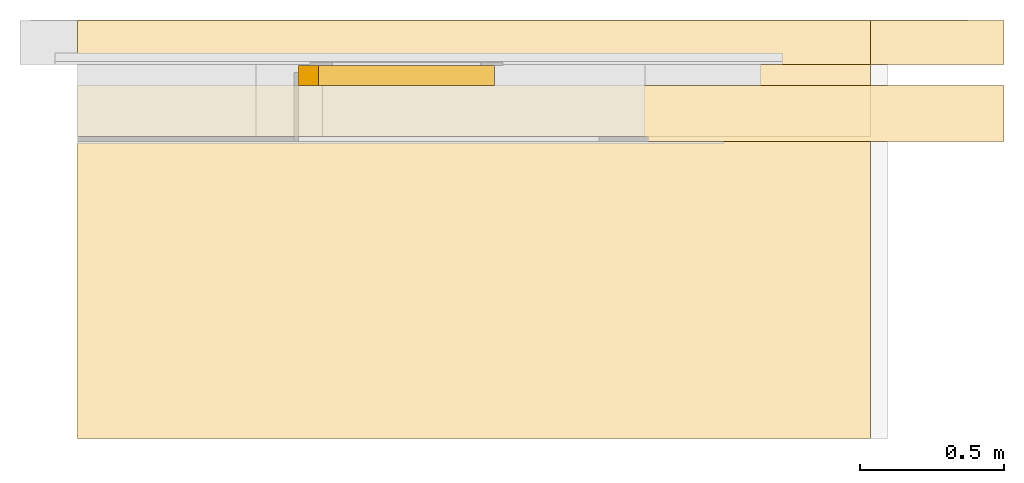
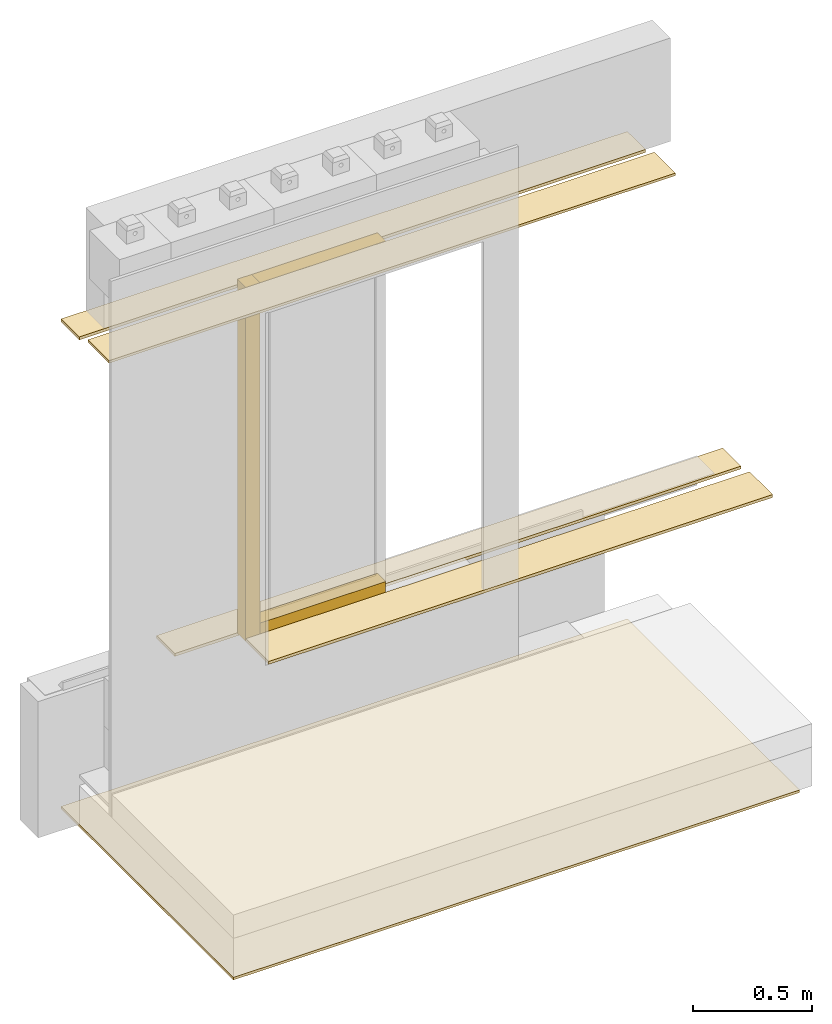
# One storey, part 2 of 4: 5 coverings, 3 windows.
"""IFC4 building model written with IfcOpenShell, lengths in centimetres."""

from ifc_helpers import new_model, entity, si_unit, converted_unit, direction, frame, origin, place, context, subcontext, project, spatial, indexed_curve, outline, extrude, source, transform, mapped, material, type_object, type_shapes, element, save


model = new_model("IFC4")

# Units and contexts
model_context = context("Model", 3, precision=0.001, world=origin(), true_north=direction((0.0, 1.0)))
body_context = subcontext(model_context, "Body", "Model", "MODEL_VIEW")
ifc_project = project(units=[si_unit("LENGTHUNIT", "METRE", prefix="CENTI"), si_unit("AREAUNIT", "SQUARE_METRE"), si_unit("VOLUMEUNIT", "CUBIC_METRE"), converted_unit("PLANEANGLEUNIT", "DEGREE", entity("IfcPlaneAngleMeasure", 0.017453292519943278), si_unit("PLANEANGLEUNIT", "RADIAN"), dimensions=[0, 0, 0, 0, 0, 0, 0])], contexts=[model_context])

# Site, building, storey
site_placement = place(None, origin())
site = spatial("IfcSite", under=ifc_project, at=site_placement, Name="Default", CompositionType="ELEMENT")
building_placement = place(site_placement, origin())
building = spatial("IfcBuilding", under=site, at=building_placement, CompositionType="ELEMENT")
storey_placement = place(building_placement, frame((0.0, 0.0, -12.0)))
storey = spatial("IfcBuildingStorey", under=building, at=storey_placement, Name="L00__ABOVE Slab", CompositionType="ELEMENT", Elevation=-12.000000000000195)

# Windows
ifc_material_1 = material(Name="_WINDOW__Profile__Aluminium", Category="Miscellaneous")
window_type_1 = type_object("IfcWindowType", Name="Windows : wdw_s__PROFILE__Frame__wp : Wood", PartitioningType="NOTDEFINED", PredefinedType="WINDOW", material=ifc_material_1)
shared_shape_1 = source(origin(), body_context, "Body", "SweptSolid", [
    extrude(outline(indexed_curve([(-3.4999999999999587, -3.5000000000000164), (3.4999999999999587, -3.5000000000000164), (3.4999999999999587, 3.5000000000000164), (-3.4999999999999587, 3.5000000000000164), (-3.4999999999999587, -3.5000000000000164)], self_intersect=False)), frame((3.5000000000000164, 3.4999999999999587, 0.0), z_axis=(0.0, 0.0, 1.0), x_axis=(0.0, -1.0, 0.0)), (0.0, 0.0, 1.0), 181.8),
])
type_shapes(window_type_1, [shared_shape_1])
window_1_placement = place(storey_placement, frame((2835.130928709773, 434.0332599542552, 56.0)))
element("IfcWindow", 1, at=window_1_placement, inside=storey, type_object=window_type_1, material=ifc_material_1, Name="Windows : wdw_s__PROFILE__Frame__wp : Wood", OverallHeight=28.355733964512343, OverallWidth=7.000000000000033, PartitioningType="NOTDEFINED", PredefinedType="WINDOW", context=body_context, shape_type="MappedRepresentation", body=[
    mapped(shared_shape_1, transform((0.0, 0.0, 0.0), scale=1.0)),
])
window_type_2 = type_object("IfcWindowType", Name="Windows : wdw_s__PROFILE__Frame__wp : Wood", PartitioningType="NOTDEFINED", PredefinedType="WINDOW", material=ifc_material_1)
shared_shape_2 = source(origin(), body_context, "Body", "SweptSolid", [
    extrude(outline(indexed_curve([(-3.4999999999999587, -3.5000000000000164), (3.4999999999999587, -3.5000000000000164), (3.4999999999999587, 3.5000000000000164), (-3.4999999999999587, 3.5000000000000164), (-3.4999999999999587, -3.5000000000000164)], self_intersect=False)), frame((3.5000000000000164, 3.4999999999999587, 0.0), z_axis=(0.0, 0.0, 1.0), x_axis=(0.0, -1.0, 0.0)), (0.0, 0.0, 1.0), 60.99999999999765),
])
type_shapes(window_type_2, [shared_shape_2])
window_2_placement = place(storey_placement, frame((2903.1309287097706, 434.0332599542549, 56.0), z_axis=(-1.0, 0.0, 0.0), x_axis=(0.0, 0.0, 1.0)))
element("IfcWindow", 2, at=window_2_placement, inside=storey, type_object=window_type_2, material=ifc_material_1, Name="Windows : wdw_s__PROFILE__Frame__wp : Wood", OverallHeight=28.355733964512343, OverallWidth=7.000000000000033, PartitioningType="NOTDEFINED", PredefinedType="WINDOW", context=body_context, shape_type="MappedRepresentation", body=[
    mapped(shared_shape_2, transform((0.0, 0.0, 0.0), scale=1.0)),
])
window_type_3 = type_object("IfcWindowType", Name="Windows : wdw_s__PROFILE__Frame__wp : Wood", PartitioningType="NOTDEFINED", PredefinedType="WINDOW", material=ifc_material_1)
shared_shape_3 = source(origin(), body_context, "Body", "SweptSolid", [
    extrude(outline(indexed_curve([(-3.5000000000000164, -3.4999999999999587), (3.5000000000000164, -3.4999999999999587), (3.5000000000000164, 3.4999999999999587), (-3.5000000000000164, 3.4999999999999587), (-3.5000000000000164, -3.4999999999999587)], self_intersect=False)), frame((3.5000000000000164, -3.4999999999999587, 0.0)), (0.0, 0.0, 1.0), 60.99999999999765),
])
type_shapes(window_type_3, [shared_shape_3])
window_3_placement = place(storey_placement, frame((2903.1309287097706, 434.0332599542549, 237.7999999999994), z_axis=(-1.0, 0.0, 0.0), x_axis=(0.0, 0.0, -1.0)))
element("IfcWindow", 3, at=window_3_placement, inside=storey, type_object=window_type_3, material=ifc_material_1, Name="Windows : wdw_s__PROFILE__Frame__wp : Wood", OverallHeight=28.355733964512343, OverallWidth=7.000000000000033, PartitioningType="NOTDEFINED", PredefinedType="WINDOW", context=body_context, shape_type="MappedRepresentation", body=[
    mapped(shared_shape_3, transform((0.0, 0.0, 0.0), scale=1.0)),
])

# Coverings
ifc_material_2 = material(Name="_STRUCTURE__Wood Solid")
covering_type_1 = type_object("IfcCoveringType", Name="Ceilings : Compound Ceiling : clg__INT COVERING__Wood", PredefinedType="CEILING")
covering_1_placement = place(storey_placement, frame((2758.5309287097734, 441.2834523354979, 233.30000000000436)))
element("IfcCovering", 4, at=covering_1_placement, inside=storey, type_object=covering_type_1, material=ifc_material_2, Name="Ceilings : Compound Ceiling : clg__INT COVERING__Wood", PredefinedType="CEILING", context=body_context, shape_type="SweptSolid", body=[
    extrude(outline(indexed_curve([(-7.650000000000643, -137.50000000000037), (7.650000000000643, -137.50000000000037), (7.650000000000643, 137.49999999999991), (-7.650000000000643, 137.49999999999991), (-7.650000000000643, -137.50000000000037)], self_intersect=False)), frame((137.49999999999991, 7.650000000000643, 0.0), z_axis=(0.0, 0.0, 1.0), x_axis=(0.0, -1.0, 0.0)), (0.0, 0.0, 1.0), 1.5000000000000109),
])
covering_2_placement = place(storey_placement, frame((2804.895368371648, 441.2834523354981, 54.49999999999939)))
element("IfcCovering", 5, at=covering_2_placement, inside=storey, type_object=covering_type_1, material=ifc_material_2, Name="Ceilings : Compound Ceiling : clg__INT COVERING__Wood", PredefinedType="CEILING", context=body_context, shape_type="SweptSolid", body=[
    extrude(outline(indexed_curve([(-7.650000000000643, -137.50000000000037), (7.650000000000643, -137.50000000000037), (7.650000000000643, 137.49999999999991), (-7.650000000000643, 137.49999999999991), (-7.650000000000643, -137.50000000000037)], self_intersect=False)), frame((137.50000000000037, 7.650000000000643, 0.0), z_axis=(0.0, 0.0, 1.0), x_axis=(0.0, -1.0, 0.0)), (0.0, 0.0, 1.0), 1.4999999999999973),
])
covering_3_placement = place(storey_placement, frame((2835.130928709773, 414.6834523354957, 56.0)))
element("IfcCovering", 6, at=covering_3_placement, inside=storey, type_object=covering_type_1, material=ifc_material_2, Name="Ceilings : Compound Ceiling : clg__INT COVERING__Wood", PredefinedType="CEILING", context=body_context, shape_type="SweptSolid", body=[
    extrude(outline(indexed_curve([(-9.674903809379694, -122.38221983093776), (9.674903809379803, -122.38221983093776), (9.674903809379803, 122.38221983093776), (-9.674903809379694, 122.38221983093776), (-9.674903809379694, -122.38221983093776)], self_intersect=False)), frame((122.38221983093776, 9.674903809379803, 0.0), z_axis=(0.0, 0.0, 1.0), x_axis=(0.0, -1.0, 0.0)), (0.0, 0.0, 1.0), 1.4999999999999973),
])
ifc_material_3 = material(Name="_WLL & CLG FINISHES__Lime - CEM Plaster", Category="Unassigned")
covering_type_2 = type_object("IfcCoveringType", Name="Ceilings : Compound Ceiling : clg__INT COVERING__, GB 1.5cm__12.5(A) 3", PredefinedType="CEILING")
covering_4_placement = place(storey_placement, frame((2758.5309287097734, 416.2834523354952, 236.50000000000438)))
element("IfcCovering", 7, at=covering_4_placement, inside=storey, type_object=covering_type_2, material=ifc_material_3, Name="Ceilings : Compound Ceiling : clg__INT COVERING__, GB 1.5cm__12.5(A) 3", PredefinedType="CEILING", context=body_context, shape_type="SweptSolid", body=[
    extrude(outline(indexed_curve([(-8.874903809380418, -137.50000000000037), (8.874903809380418, -137.50000000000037), (8.874903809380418, 137.49999999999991), (-8.874903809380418, 137.49999999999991), (-8.874903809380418, -137.50000000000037)], self_intersect=False)), frame((137.49999999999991, 8.874903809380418, 0.0), z_axis=(0.0, 0.0, 1.0), x_axis=(0.0, -1.0, 0.0)), (0.0, 0.0, 1.0), 1.3000000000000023),
])
covering_5_placement = place(storey_placement, frame((2758.5309287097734, 311.6834523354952, -16.799999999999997)))
element("IfcCovering", 8, at=covering_5_placement, inside=storey, type_object=covering_type_2, material=ifc_material_3, Name="Ceilings : Compound Ceiling : clg__INT COVERING__, GB 1.5cm__12.5(A) 3", PredefinedType="CEILING", context=body_context, shape_type="SweptSolid", body=[
    extrude(outline(indexed_curve([(-72.45000000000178, -137.50000000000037), (72.45000000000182, -137.50000000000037), (72.45000000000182, 137.49999999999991), (-72.45000000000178, 137.49999999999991), (-72.45000000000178, -137.50000000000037)], self_intersect=False)), frame((137.49999999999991, 72.45000000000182, 0.0), z_axis=(0.0, 0.0, 1.0), x_axis=(0.0, -1.0, 0.0)), (0.0, 0.0, 1.0), 1.299999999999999),
])

save(model, "model.ifc")
